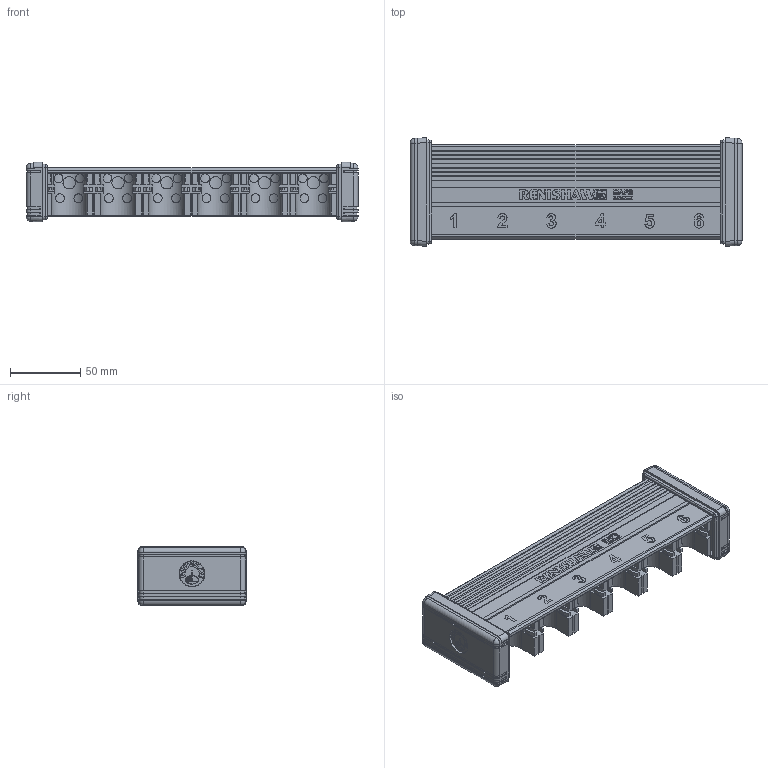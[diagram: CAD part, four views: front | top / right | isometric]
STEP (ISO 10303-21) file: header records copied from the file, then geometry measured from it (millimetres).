
FILE_DESCRIPTION(/* description */ (''),/* implementation_level */ '2;1');
FILE_NAME(/* name */ 'LA-1071-0002-A.stp',/* time_stamp */ '2019-11-25T14:09:11+00:00',/* author */ (''),/* organization */ (''),/* preprocessor_version */ 'ST-DEVELOPER v16.7',/* originating_system */ 'SIEMENS PLM Software NX 12.0',/* authorisation */ '');
FILE_SCHEMA (('AUTOMOTIVE_DESIGN { 1 0 10303 214 3 1 1 1 }'));
Length unit declared in the file: millimetre
Products named in the file (1): sw1411001645j2km
Bounding box: 236.15 x 77 x 42.5 mm (x, y, z)
Volume: 351000.6 mm3; surface area: 94867.3 mm2
Topology: 1 solids, 1 shells, 673 faces, 2168 edges, 1631 vertices
Faces by surface type: plane 471, cylinder 184, bspline 8, sphere 8, cone 2
Full cylindrical faces by diameter (mm): 17.7 x2
Entity records: 26544 total; most frequent: CARTESIAN_POINT 6647, ORIENTED_EDGE 4316, DIRECTION 3498, EDGE_CURVE 2158, VERTEX_POINT 1629, LINE 1330, VECTOR 1330, AXIS2_PLACEMENT_3D 1084
